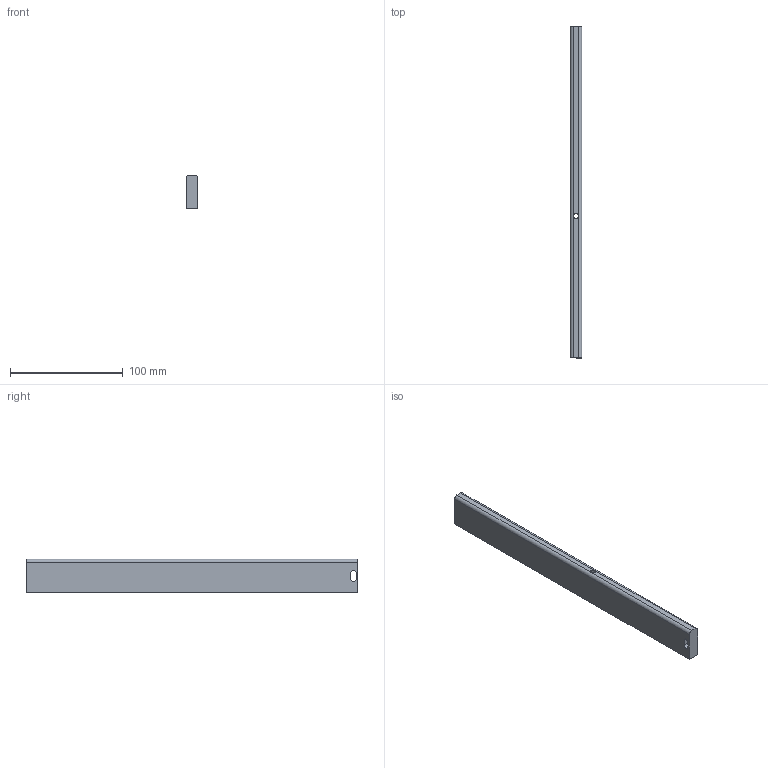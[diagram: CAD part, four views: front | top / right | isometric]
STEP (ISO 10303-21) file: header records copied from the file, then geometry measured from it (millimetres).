
FILE_DESCRIPTION (( 'STEP AP214' ), '1' );
FILE_NAME ('_Seitenreling_S760610200_RL295.step', '2010-09-06T14:51:42', ( 'grass' ), ( '' ), 'SwSTEP 2.0', 'SolidWorks 2010', '' );
FILE_SCHEMA (( 'AUTOMOTIVE_DESIGN' ));
Length unit declared in the file: millimetre
Products named in the file (1): _Seitenreling_S760610200_RL295
Bounding box: 10.5 x 295 x 30 mm (x, y, z)
Volume: 90397.8 mm3; surface area: 24476.6 mm2
Topology: 1 solids, 1 shells, 18 faces, 46 edges, 30 vertices
Faces by surface type: plane 10, cylinder 8
Entity records: 594 total; most frequent: DIRECTION 102, CARTESIAN_POINT 95, ORIENTED_EDGE 92, EDGE_CURVE 46, AXIS2_PLACEMENT_3D 37, VERTEX_POINT 30, LINE 28, VECTOR 28
